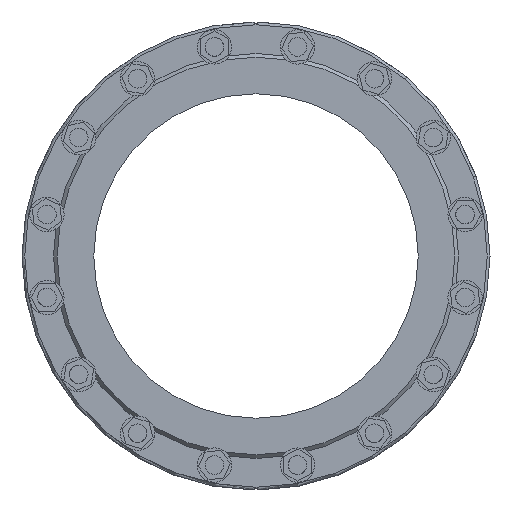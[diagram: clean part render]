
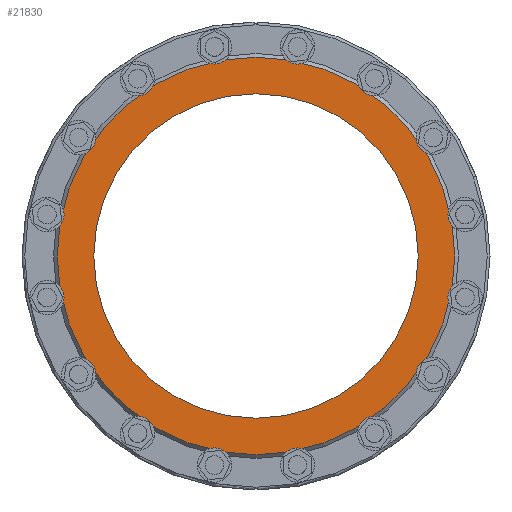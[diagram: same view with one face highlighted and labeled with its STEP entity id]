
A CAD part, left-side view. The second image highlights one B-rep face of the part: STEP entity #21830.
In plain terms, the highlighted planar face has unit normal (-1, 0, 0).
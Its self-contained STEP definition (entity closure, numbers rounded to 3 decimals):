
#8 = AXIS2_PLACEMENT_3D ( 'NONE', #2799, #15314, #8792 ) ;
#2289 = EDGE_CURVE ( 'NONE', #7470, #7470, #6290, .T. ) ;
#2799 = CARTESIAN_POINT ( 'NONE',  ( -63., -175., 0. ) ) ;
#4000 = VERTEX_POINT ( 'NONE', #12508 ) ;
#4639 = DIRECTION ( 'NONE',  ( 0., 0., -1. ) ) ;
#5650 = EDGE_CURVE ( 'NONE', #4000, #4000, #19490, .T. ) ;
#6290 = CIRCLE ( 'NONE', #7560, 214.5 ) ;
#7193 = AXIS2_PLACEMENT_3D ( 'NONE', #24858, #22851, #4639 ) ;
#7340 = CARTESIAN_POINT ( 'NONE',  ( -63., 0., -214.5 ) ) ;
#7470 = VERTEX_POINT ( 'NONE', #7340 ) ;
#7560 = AXIS2_PLACEMENT_3D ( 'NONE', #18856, #25230, #18987 ) ;
#8792 = DIRECTION ( 'NONE',  ( 0., 0., 1. ) ) ;
#9184 = FACE_BOUND ( 'NONE', #24751, .T. ) ;
#10947 = ORIENTED_EDGE ( 'NONE', *, *, #2289, .T. ) ;
#12508 = CARTESIAN_POINT ( 'NONE',  ( -63., 0., -175. ) ) ;
#12922 = PLANE ( 'NONE',  #8 ) ;
#15314 = DIRECTION ( 'NONE',  ( 1., 0., 0. ) ) ;
#18856 = CARTESIAN_POINT ( 'NONE',  ( -63., 0., 0. ) ) ;
#18987 = DIRECTION ( 'NONE',  ( 0., 0., -1. ) ) ;
#19490 = CIRCLE ( 'NONE', #7193, 175. ) ;
#21410 = FACE_OUTER_BOUND ( 'NONE', #25790, .T. ) ;
#21830 = ADVANCED_FACE ( 'NONE', ( #9184, #21410 ), #12922, .F. ) ;
#22851 = DIRECTION ( 'NONE',  ( 1., 0., 0. ) ) ;
#24751 = EDGE_LOOP ( 'NONE', ( #26253 ) ) ;
#24858 = CARTESIAN_POINT ( 'NONE',  ( -63., 0., 0. ) ) ;
#25230 = DIRECTION ( 'NONE',  ( -1., 0., 0. ) ) ;
#25790 = EDGE_LOOP ( 'NONE', ( #10947 ) ) ;
#26253 = ORIENTED_EDGE ( 'NONE', *, *, #5650, .T. ) ;
